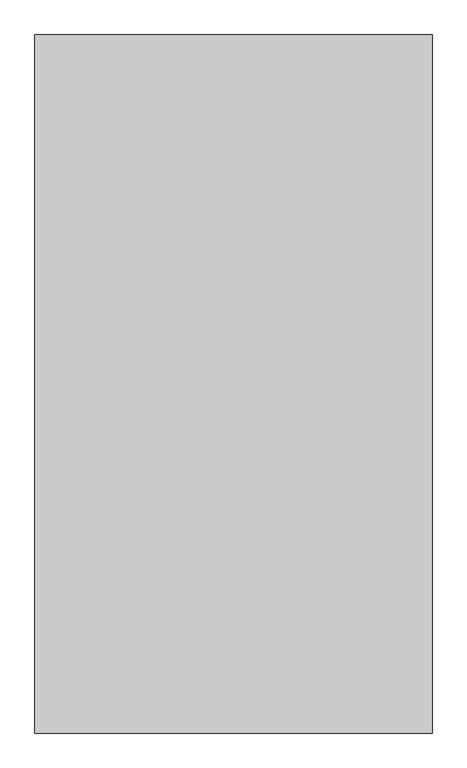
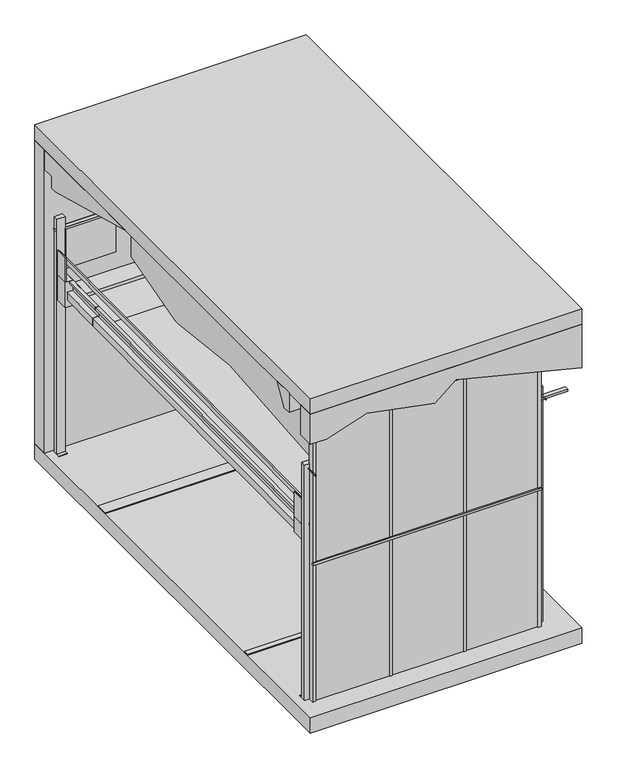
"""IFC4 building model written with IfcOpenShell, lengths in millimetres: proxy geometry, TrendVario 6200+ : TrendVario 6200+."""

from ifc_helpers import new_model, si_unit, point, frame, frame_2d, origin, origin_with_axes, place, context, project, spatial, polyline, circle_curve, trimmed, segment, composite_curve, outline, extrude, faceted_brep, source, transform, mapped, element, save
from ifc_brep_helpers import plane_surface, cylinder_surface, advanced_brep


def generic_models_ba3884c7(model_context):
    return source(origin(), model_context, "Body", "SolidModel", [
        extrude(outline(composite_curve([segment(trimmed(circle_curve(frame_2d((2850.0, 5300.0602659)), 6.0), [point((2850.0, 5294.0602659))], [point((2850.0, 5306.0602659))], False, "CARTESIAN"), True, "CONTINUOUS"), segment(trimmed(circle_curve(frame_2d((2850.0, 5300.0602659)), 6.0), [point((2850.0, 5306.0602659))], [point((2850.0, 5294.0602659))], False, "CARTESIAN"), True, "CONTINUOUS")], self_intersect=False)), frame((0.0, 0.0, -150.0), z_axis=(0.0, 0.0, 1.0), x_axis=(1.0, 0.0, 0.0)), (0.0, 0.0, 1.0), 150.0),
        extrude(outline(composite_curve([segment(trimmed(circle_curve(frame_2d((50.0, 5300.0602653)), 6.0), [point((44.0, 5300.0602653))], [point((56.0, 5300.0602653))], False, "CARTESIAN"), True, "CONTINUOUS"), segment(trimmed(circle_curve(frame_2d((50.0, 5300.0602653)), 6.0), [point((56.0, 5300.0602653))], [point((44.0, 5300.0602653))], False, "CARTESIAN"), True, "CONTINUOUS")], self_intersect=False)), frame((0.0, 0.0, -150.0), z_axis=(0.0, 0.0, 1.0), x_axis=(1.0, 0.0, 0.0)), (0.0, 0.0, 1.0), 150.0),
        extrude(outline(composite_curve([segment(trimmed(circle_curve(frame_2d((2850.0, 170.0)), 6.0), [point((2850.0, 164.0))], [point((2850.0, 176.0))], False, "CARTESIAN"), True, "CONTINUOUS"), segment(trimmed(circle_curve(frame_2d((2850.0, 170.0)), 6.0), [point((2850.0, 176.0))], [point((2850.0, 164.0))], False, "CARTESIAN"), True, "CONTINUOUS")], self_intersect=False)), frame((0.0, 0.0, -150.0), z_axis=(0.0, 0.0, 1.0), x_axis=(1.0, 0.0, 0.0)), (0.0, 0.0, 1.0), 150.0),
        extrude(outline(composite_curve([segment(trimmed(circle_curve(frame_2d((50.0, 170.0)), 6.0), [point((44.0, 170.0))], [point((56.0, 170.0))], False, "CARTESIAN"), True, "CONTINUOUS"), segment(trimmed(circle_curve(frame_2d((50.0, 170.0)), 6.0), [point((56.0, 170.0))], [point((44.0, 170.0))], False, "CARTESIAN"), True, "CONTINUOUS")], self_intersect=False)), frame((0.0, 0.0, -150.0), z_axis=(0.0, 0.0, 1.0), x_axis=(1.0, 0.0, 0.0)), (0.0, 0.0, 1.0), 150.0),
        extrude(outline(composite_curve([segment(trimmed(circle_curve(frame_2d((2965.0, 2850.0)), 6.0), [point((2965.0, 2844.0))], [point((2965.0, 2856.0))], False, "CARTESIAN"), True, "CONTINUOUS"), segment(trimmed(circle_curve(frame_2d((2965.0, 2850.0)), 6.0), [point((2965.0, 2856.0))], [point((2965.0, 2844.0))], False, "CARTESIAN"), True, "CONTINUOUS")], self_intersect=False)), frame((0.0, -50.0, 0.0), z_axis=(0.0, 1.0, 0.0), x_axis=(0.0, 0.0, 1.0)), (0.0, 0.0, 1.0), 150.0),
        extrude(outline(composite_curve([segment(trimmed(circle_curve(frame_2d((2965.0, 50.0)), 6.0), [point((2965.0, 44.0))], [point((2965.0, 56.0))], False, "CARTESIAN"), True, "CONTINUOUS"), segment(trimmed(circle_curve(frame_2d((2965.0, 50.0)), 6.0), [point((2965.0, 56.0))], [point((2965.0, 44.0))], False, "CARTESIAN"), True, "CONTINUOUS")], self_intersect=False)), frame((0.0, -50.0, 0.0), z_axis=(0.0, 1.0, 0.0), x_axis=(0.0, 0.0, 1.0)), (0.0, 0.0, 1.0), 150.0),
        extrude(outline(composite_curve([segment(trimmed(circle_curve(frame_2d((2965.0, 50.0)), 6.0), [point((2965.0, 44.0))], [point((2965.0, 56.0))], False, "CARTESIAN"), True, "CONTINUOUS"), segment(trimmed(circle_curve(frame_2d((2965.0, 50.0)), 6.0), [point((2965.0, 56.0))], [point((2965.0, 44.0))], False, "CARTESIAN"), True, "CONTINUOUS")], self_intersect=False)), frame((0.0, 5369.5816653, 0.0), z_axis=(0.0, 1.0, 0.0), x_axis=(0.0, 0.0, 1.0)), (0.0, 0.0, 1.0), 150.0),
        extrude(outline(composite_curve([segment(trimmed(circle_curve(frame_2d((2965.0, 2850.0)), 6.0), [point((2965.0, 2844.0))], [point((2965.0, 2856.0))], False, "CARTESIAN"), True, "CONTINUOUS"), segment(trimmed(circle_curve(frame_2d((2965.0, 2850.0)), 6.0), [point((2965.0, 2856.0))], [point((2965.0, 2844.0))], False, "CARTESIAN"), True, "CONTINUOUS")], self_intersect=False)), frame((0.0, 5369.6045102, 0.0), z_axis=(0.0, 1.0, 0.0), x_axis=(0.0, 0.0, 1.0)), (0.0, 0.0, 1.0), 150.0),
        extrude(outline(polyline([(0.0, -60.0), (0.0, 0.0), (4430.0, 0.0), (4430.0, -60.0), (0.0, -60.0)])), frame((2811.0, 171.9869847, 2038.264563), z_axis=(0.0, -0.008726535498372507, 0.9999619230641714), x_axis=(0.0, 0.9999619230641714, 0.008726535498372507)), (0.0, 0.0, 1.0), 100.0),
        extrude(outline(polyline([(0.0, -19.0), (0.0, 0.0), (4440.0, 0.0), (4440.0, -19.0), (0.0, -19.0)])), frame((2863.0, 167.9116926, 2505.246781), z_axis=(0.0, -0.008726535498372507, 0.9999619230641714), x_axis=(0.0, 0.9999619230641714, 0.008726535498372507)), (0.0, 0.0, 1.0), 56.0),
        faceted_brep([(2800.0, 4599.8286538, 2304.9144337), (2843.0, 4599.8286538, 2304.9144337), (2843.0, 4600.0904499, 2274.915576), (2840.0, 4600.0904499, 2274.915576), (2840.0, 4599.8548334, 2301.9145479), (2803.0, 4599.8548334, 2301.9145479), (2803.0, 4602.6211451, 1984.9266183), (2748.0, 4602.6211451, 1984.9266183), (2748.0, 4602.210998, 2031.9248287), (2711.0, 4602.210998, 2031.9248287), (2711.0, 4602.1848184, 2034.9247145), (2751.0, 4602.1848184, 2034.9247145), (2751.0, 4602.5949655, 1987.9265041), (2800.0, 4602.5949655, 1987.9265041), (2803.0, 102.7924914, 1945.6572086), (2803.0, 100.0261796, 2262.6451382), (2840.0, 100.0261796, 2262.6451382), (2840.0, 100.2617961, 2235.6461663), (2843.0, 100.2617961, 2235.6461663), (2843.0, 100.0, 2265.645024), (2800.0, 100.0, 2265.645024), (2800.0, 102.7924914, 1945.6572086), (2800.0, 202.7886837, 1946.5298621), (2748.0, 202.7886837, 1946.5298621), (2748.0, 202.3785365, 1993.5280725), (2711.0, 202.3785365, 1993.5280725), (2711.0, 202.3523569, 1996.5279583), (2751.0, 202.3523569, 1996.5279583), (2751.0, 202.7625041, 1949.5297479), (2800.0, 202.7625041, 1949.5297479)], [[[0, 1, 2, 3, 4, 5, 6, 7, 8, 9, 10, 11, 12, 13]], [[14, 15, 16, 17, 18, 19, 20, 21]], [[1, 0, 20, 19]], [[2, 1, 19, 18]], [[3, 2, 18, 17]], [[4, 3, 17, 16]], [[5, 4, 16, 15]], [[6, 5, 15, 14]], [[7, 6, 14, 21, 22, 23]], [[8, 7, 23, 24]], [[9, 8, 24, 25]], [[10, 9, 25, 26]], [[11, 10, 26, 27]], [[12, 11, 27, 28]], [[13, 12, 28, 29]], [[0, 13, 29, 22, 21, 20]], [[22, 29, 28, 27, 26, 25, 24, 23]]]),
        extrude(outline(polyline([(2133.867435, 0.0), (2133.867435, -1200.0), (-1962.132565, -1200.0), (-1962.132565, 0.0), (2133.867435, 0.0)])), frame((1600.0, 2468.3986345, 2016.3034445), z_axis=(0.0, -0.008726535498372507, 0.9999619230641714), x_axis=(0.0, 0.9999619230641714, 0.008726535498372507)), (0.0, 0.0, 1.0), 8.0),
        extrude(outline(polyline([(0.0, -1500.0), (0.0, 0.0), (769.9999999, 0.0), (769.9999999, -1500.0), (0.0, -1500.0)])), frame((100.0, 4602.1898877, 2034.9247587), z_axis=(0.0, -0.008726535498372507, 0.9999619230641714), x_axis=(0.0, 0.9999619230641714, 0.008726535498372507)), (0.0, 0.0, 1.0), 8.0),
        extrude(outline(polyline([(5133.7158509, 2091.5652956), (5371.7067886, 2093.642211), (5372.0907561, 2049.6438864), (5369.0908704, 2049.6177068), (5368.7330824, 2090.6161457), (5136.7419163, 2088.5915894), (5137.0997042, 2047.5931506), (5134.0998185, 2047.566971), (5133.7158509, 2091.5652956)])), frame((100.0, 0.0, 0.0), z_axis=(1.0, 0.0, 0.0), x_axis=(0.0, 1.0, 0.0)), (0.0, 0.0, 1.0), 1500.0),
        extrude(outline(polyline([(319.9999999, 0.0), (319.9999999, -43.0), (289.9999999, -43.0), (289.9999999, -40.0), (317.0, -40.0), (317.0, -3.0), (0.0, -3.0), (0.0, 52.0), (46.9999999, 52.0), (46.9999999, 89.0), (49.9999999, 89.0), (49.9999999, 49.0), (2.9999999, 49.0), (2.9999999, 0.0), (319.9999999, 0.0)])), frame((100.0, 4602.6262144, 1984.9266626), z_axis=(0.0, 0.9999619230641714, 0.008726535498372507), x_axis=(0.0, -0.008726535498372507, 0.9999619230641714)), (0.0, 0.0, 1.0), 770.0),
        extrude(outline(polyline([(200.0, 8.0), (200.0, 0.0), (100.0, 0.0), (100.0, 3025.0), (160.0, 3025.0), (160.0, 8.0), (200.0, 8.0)])), frame((0.0, 0.0, 0.0), z_axis=(1.0, 0.0, 0.0), x_axis=(0.0, 1.0, 0.0)), (0.0, 0.0, 1.0), 100.0),
        faceted_brep([(-100.0, 5249.9885779, 3650.0), (3200.0, 5249.9885779, 3650.0), (3200.0, 5249.9885779, 3500.0), (-100.0, 5249.9885779, 3500.0), (-100.0, 5399.9657348, 3650.0), (3200.0, 5399.9657348, 3650.0), (3200.0, 5167.6820669, 3500.0), (3200.0, 3699.9673137, 3900.0057953), (-100.0, 3699.9885779, 3900.0), (-100.0, 5167.6820669, 3500.0), (3200.0, 5399.9657348, 3900.0), (-100.0, 5399.9657348, 3900.0)], [[[0, 1, 2, 3]], [[1, 0, 4, 5]], [[6, 7, 8, 9]], [[10, 7, 6, 2, 1, 5]], [[8, 11, 4, 0, 3, 9]], [[11, 10, 5, 4]], [[7, 10, 11, 8]], [[2, 6, 9, 3]]]),
        extrude(outline(polyline([(3511.8273555, -100.0), (3511.8273555, 90.0080034), (3672.5161926, 584.5573919), (3511.8273555, 1411.229794), (3719.8801857, 1665.5456754), (3337.2977535, 3200.0), (3900.0, 3200.0), (3900.0, -100.0), (3511.8273555, -100.0)])), frame((0.0, -200.0, 0.0), z_axis=(0.0, 1.0, 0.0), x_axis=(0.0, 0.0, 1.0)), (0.0, 0.0, 1.0), 200.0),
        extrude(outline(polyline([(100.0, 45.0), (100.0, 55.0), (2800.0, 55.0), (2800.0, 45.0), (100.0, 45.0)])), origin_with_axes(), (0.0, 0.0, 1.0), 3526.0),
        extrude(outline(polyline([(1932.0, 44.0), (1932.0, 35.0), (1902.0, 35.0), (1902.0, 44.0), (1932.0, 44.0)])), origin_with_axes(), (0.0, 0.0, 1.0), 3526.0),
        extrude(outline(polyline([(1031.0, 44.0), (1031.0, 35.0), (1001.0, 35.0), (1001.0, 44.0), (1031.0, 44.0)])), origin_with_axes(), (0.0, 0.0, 1.0), 3526.0),
        extrude(outline(polyline([(0.0, -19.0), (0.0, 0.0), (5147.1058324, 0.0), (5147.1058324, -19.0), (0.0, -19.0)])), frame((37.0, 5302.7546227, 2550.0578764), z_axis=(0.0, -0.008726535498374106, 0.9999619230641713), x_axis=(0.0, -0.9999619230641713, -0.008726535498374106)), (0.0, 0.0, 1.0), 56.0),
        extrude(outline(polyline([(18.0, 5142.5968952), (7.0, 5142.5968952), (7.0, 5312.5968952), (18.0, 5312.5968952), (18.0, 5142.5968952)])), frame((0.0, 0.0, 2319.0), z_axis=(0.0, 0.0, 1.0), x_axis=(1.0, 0.0, 0.0)), (0.0, 0.0, 1.0), 310.0),
        extrude(outline(polyline([(2882.0, 5142.0602659), (2882.0, 5312.0602659), (2893.0, 5312.0602659), (2893.0, 5142.0602659), (2882.0, 5142.0602659)])), frame((0.0, 0.0, 2319.0), z_axis=(0.0, 0.0, 1.0), x_axis=(1.0, 0.0, 0.0)), (0.0, 0.0, 1.0), 310.0),
        extrude(outline(polyline([(5369.6045102, 0.0), (5270.0602659, 0.0), (5270.0602659, 8.0), (5310.0602659, 8.0), (5310.0602659, 3025.0), (5369.6045102, 3025.0), (5369.6045102, 0.0)])), frame((2800.0, 0.0, 0.0), z_axis=(1.0, 0.0, 0.0), x_axis=(0.0, 1.0, 0.0)), (0.0, 0.0, 1.0), 100.0),
        extrude(outline(polyline([(5269.5968952, 0.0), (5269.5968952, 8.0), (5309.5968952, 8.0), (5309.5968952, 3025.0), (5369.5968952, 3025.0), (5369.5968952, 0.0), (5269.5968952, 0.0)])), frame((0.0, 0.0, 0.0), z_axis=(1.0, 0.0, 0.0), x_axis=(0.0, 1.0, 0.0)), (0.0, 0.0, 1.0), 100.0),
        advanced_brep(
        [(850.0080034, 219.0783305, 2530.0), (850.0080034, 212.7549246, 3254.5905482), (850.0080034, 507.9448535, 3807.0791047), (850.0080034, 614.5742843, 3808.0096456), (850.0080034, 616.0660458, 3810.8016825), (850.0080034, 3620.0751529, 3837.0172728), (850.0080034, 5220.0526533, 3400.9650555), (850.0080034, 5220.0602659, 2299.8475577), (850.0080034, 4315.7898833, 2049.0711861), (850.0080034, 4227.211946, 2040.6781608), (850.0080034, 3146.7425411, 2165.2190354), (850.0080034, 1426.7734714, 2016.5954437), (850.0080034, 1343.0441931, 2020.9835093), (850.0080034, 226.8699728, 2268.4333765), (850.0080034, 224.5873155, 2530.0), (2750.0080034, 507.9448535, 3807.0791047), (2750.0080034, 212.7549245, 3254.5905482), (2750.0080034, 219.0783305, 2530.0), (2750.0080034, 224.5873155, 2530.0), (2750.0080034, 226.8699728, 2268.4333765), (2750.0080034, 1343.0441931, 2020.9835093), (2750.0080034, 1426.7734714, 2016.5954437), (2750.0080034, 3146.7425411, 2165.2190354), (2750.0080034, 4227.211946, 2040.6781608), (2750.0080034, 4315.7898833, 2049.0711861), (2750.0080034, 5220.0602659, 2299.8475577), (2750.0080034, 5220.0526533, 3400.9650555), (2750.0080034, 3620.0751529, 3837.0172728), (2750.0080034, 616.0660458, 3810.8016825), (2750.0080034, 614.5742843, 3808.0096456)],
        [
            (0, 1),
            (1, 2),
            (2, 3),
            (3, 4),
            (4, 5),
            (5, 6),
            (6, 7),
            (7, 8),
            (8, 9, circle_curve(frame((850.0080034, 4247.9113358, 2293.8333213), z_axis=(-1.0, 6.846874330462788e-12, 0.0), x_axis=(6.846340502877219e-12, 0.9999619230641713, 0.008726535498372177)), 254.0)),
            (9, 10),
            (10, 11),
            (11, 12, circle_curve(frame((850.0080034, 1398.0198551, 2268.9626951), z_axis=(-1.0, 6.846874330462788e-12, 0.0), x_axis=(6.846340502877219e-12, 0.9999619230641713, 0.008726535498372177)), 254.0)),
            (12, 13),
            (13, 14),
            (14, 0),
            (15, 16),
            (16, 17),
            (17, 18),
            (18, 19),
            (19, 20),
            (20, 21, circle_curve(frame((2750.0080034, 1398.0198551, 2268.9626951), z_axis=(1.0, -6.846874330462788e-12, 0.0), x_axis=(6.846340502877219e-12, 0.9999619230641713, 0.008726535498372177)), 254.0)),
            (21, 22),
            (22, 23),
            (23, 24, circle_curve(frame((2750.0080034, 4247.9113358, 2293.8333213), z_axis=(1.0, -6.846874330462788e-12, 0.0), x_axis=(6.846340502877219e-12, 0.9999619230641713, 0.008726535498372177)), 254.0)),
            (24, 25),
            (25, 26),
            (26, 27),
            (27, 28),
            (28, 29),
            (29, 15),
            (2, 15),
            (29, 3),
            (1, 16),
            (17, 0),
            (14, 18),
            (4, 28),
            (27, 5),
            (26, 6),
            (25, 7),
            (24, 8),
            (23, 9),
            (22, 10),
            (21, 11),
            (20, 12),
            (19, 13),
        ],
        [
            plane_surface(frame((850.0080034, 428.8717402, 3900.0), z_axis=(-1.0, 6.846035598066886e-12, 0.0), x_axis=(0.0, 0.0, 1.0))),
            plane_surface(frame((2750.0080034, 428.8717402, 3900.0), z_axis=(1.0, -6.846035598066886e-12, 0.0), x_axis=(0.0, 0.0, 1.0))),
            plane_surface(frame((850.0080034, 507.9448535, 3807.0791047), z_axis=(0.0, -0.008726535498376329, 0.9999619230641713), x_axis=(1.0, -6.846035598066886e-12, 0.0))),
            plane_surface(frame((850.0080034, 212.7549246, 3254.5905482), z_axis=(-6.038215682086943e-12, -0.8820017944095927, 0.4712460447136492), x_axis=(1.0, -6.846035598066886e-12, 0.0))),
            plane_surface(frame((850.0080034, 4789.9238543, 2530.0), z_axis=(0.0, 0.0, -1.0), x_axis=(1.0, -6.845999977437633e-12, 0.0))),
            plane_surface(frame((850.0080034, 219.0783305, 2530.0), z_axis=(-6.845774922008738e-12, -0.9999619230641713, -0.008726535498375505), x_axis=(1.0, -6.846035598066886e-12, 0.0))),
            plane_surface(frame((850.0080034, 616.0660458, 3810.8016825), z_axis=(0.0, -0.008726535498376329, 0.9999619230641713), x_axis=(1.0, -6.845999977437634e-12, 0.0))),
            plane_surface(frame((850.0080034, 3620.0751529, 3837.0172728), z_axis=(1.8001286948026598e-12, 0.2629460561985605, 0.9648105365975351), x_axis=(1.0, -6.845999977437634e-12, 0.0))),
            plane_surface(frame((850.0080034, 320.8761169, 3258.313126), z_axis=(-6.0382156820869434e-12, -0.8820017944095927, 0.4712460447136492), x_axis=(1.0, -6.846035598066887e-12, 0.0))),
            plane_surface(frame((850.0080034, 5220.0526533, 3400.9650555), z_axis=(6.845999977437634e-12, 1.0, 0.0), x_axis=(1.0, -6.845999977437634e-12, 0.0))),
            plane_surface(frame((2750.0080034, 4315.7898833, 2049.0711861), z_axis=(1.7721223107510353e-12, 0.26723837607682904, -0.963630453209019), x_axis=(-1.0, 6.8459999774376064e-12, 0.0))),
            cylinder_surface(frame((2750.0080034, 4247.9113358, 2293.8333213), z_axis=(1.0, -6.846874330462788e-12, 0.0), x_axis=(6.846340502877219e-12, 0.9999619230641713, 0.008726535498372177)), 254.0),
            plane_surface(frame((2750.0080034, 3146.7425411, 2165.2190354), z_axis=(0.0, -0.11450735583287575, -0.9934224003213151), x_axis=(-1.0, 6.845999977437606e-12, 0.0))),
            plane_surface(frame((2750.0080034, 1426.7734714, 2016.5954437), z_axis=(0.0, 0.08608980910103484, -0.9962873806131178), x_axis=(-1.0, 6.845999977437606e-12, 0.0))),
            cylinder_surface(frame((2750.0080034, 1398.0198551, 2268.9626951), z_axis=(1.0, -6.846874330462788e-12, 0.0), x_axis=(6.846340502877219e-12, 0.9999619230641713, 0.008726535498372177)), 254.0),
            plane_surface(frame((2750.0080034, 226.8699728, 2268.4333765), z_axis=(-1.5398915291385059e-12, -0.21643961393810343, -0.9762960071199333), x_axis=(-1.0, 6.845999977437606e-12, 0.0))),
            plane_surface(frame((2750.0080034, 220.9776342, 2943.6285041), z_axis=(-6.8462590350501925e-12, -0.9999619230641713, -0.00872653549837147), x_axis=(-1.0, 6.845999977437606e-12, 0.0))),
        ],
        [
            (0, [[1, 2, 3, 4, 5, 6, 7, 8, 9, 10, 11, 12, 13, 14, 15]]),
            (1, [[16, 17, 18, 19, 20, 21, 22, 23, 24, 25, 26, 27, 28, 29, 30]]),
            (2, [[31, -30, 32, -3]]),
            (3, [[-2, 33, -16, -31]]),
            (4, [[34, -15, 35, -18]]),
            (5, [[-1, -34, -17, -33]]),
            (6, [[-5, 36, -28, 37]]),
            (7, [[-6, -37, -27, 38]]),
            (8, [[-36, -4, -32, -29]]),
            (9, [[-7, -38, -26, 39]]),
            (10, [[-25, 40, -8, -39]]),
            (11, [[-24, 41, -9, -40]]),
            (12, [[-23, 42, -10, -41]]),
            (13, [[-22, 43, -11, -42]]),
            (14, [[-21, 44, -12, -43]]),
            (15, [[-20, 45, -13, -44]]),
            (16, [[-45, -19, -35, -14]]),
        ],
    ),
        extrude(outline(polyline([(1932.0, 35.0), (1902.0, 35.0), (1902.0, 44.0), (1932.0, 44.0), (1932.0, 35.0)])), origin_with_axes(), (0.0, 0.0, 1.0), 3526.0),
        extrude(outline(polyline([(1031.0, 35.0), (1001.0, 35.0), (1001.0, 44.0), (1031.0, 44.0), (1031.0, 35.0)])), origin_with_axes(), (0.0, 0.0, 1.0), 3526.0),
        extrude(outline(polyline([(3200.0, 153.0), (3200.0, 100.0), (97.0, 100.0), (97.0, 153.0), (3200.0, 153.0)])), frame((0.0, 0.0, 2854.0), z_axis=(0.0, 0.0, 1.0), x_axis=(1.0, 0.0, 0.0)), (0.0, 0.0, 1.0), 25.0),
        extrude(outline(polyline([(-3.0, 5319.5968952), (-3.0, 5369.5968952), (3200.0, 5369.5968952), (3200.0, 5319.5968952), (-3.0, 5319.5968952)])), frame((0.0, 0.0, 2854.0), z_axis=(0.0, 0.0, 1.0), x_axis=(1.0, 0.0, 0.0)), (0.0, 0.0, 1.0), 25.0),
        extrude(outline(polyline([(700.0, 5369.6045096), (700.0, 5284.6045096), (100.0, 5284.6045096), (100.0, 5369.6045096), (700.0, 5369.6045096)])), frame((0.0, 0.0, 2379.0), z_axis=(0.0, 0.0, 1.0), x_axis=(1.0, 0.0, 0.0)), (0.0, 0.0, 1.0), 500.0),
        extrude(outline(polyline([(250.0, 3650.0), (250.0, 3900.0), (500.0, 3900.0), (349.6363636, 3650.0), (250.0, 3650.0)])), frame((-100.0, 0.0, 0.0), z_axis=(1.0, 0.0, 0.0), x_axis=(0.0, 1.0, 0.0)), (0.0, 0.0, 1.0), 3300.0),
        extrude(outline(polyline([(60.0, 32.0), (60.0, 100.0), (2840.0, 100.0), (2840.0, 32.0), (60.0, 32.0)])), frame((0.0, 0.0, 3526.0), z_axis=(0.0, 0.0, 1.0), x_axis=(1.0, 0.0, 0.0)), (0.0, 0.0, 1.0), 74.0),
        extrude(outline(polyline([(60.0, 20.0), (60.0, 34.0), (2840.0, 34.0), (2840.0, 20.0), (60.0, 20.0)])), frame((0.0, 0.0, 1763.0), z_axis=(0.0, 0.0, 1.0), x_axis=(1.0, 0.0, 0.0)), (0.0, 0.0, 1.0), 30.0),
        extrude(outline(polyline([(2840.0, 32.0), (2800.0, 32.0), (2800.0, 100.0), (2840.0, 100.0), (2840.0, 32.0)])), origin_with_axes(), (0.0, 0.0, 1.0), 3526.0),
        extrude(outline(polyline([(100.0, 32.0), (60.0, 32.0), (60.0, 100.0), (100.0, 100.0), (100.0, 32.0)])), origin_with_axes(), (0.0, 0.0, 1.0), 3526.0),
        extrude(outline(polyline([(0.0, -19.0), (0.0, 0.0), (702.4860602, 0.0), (702.4860602, -19.0), (0.0, -19.0)])), frame((2882.0, 5310.2019427, 2550.1228682), z_axis=(0.0, -0.00872653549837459, 0.9999619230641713), x_axis=(0.0, -0.9999619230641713, -0.00872653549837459)), (0.0, 0.0, 1.0), 56.0),
        extrude(outline(polyline([(0.0, -59.9999949), (0.0, 0.0), (622.0497333, 0.0), (622.0497333, -59.9999949), (0.0, -59.9999949)])), frame((2810.9999948, 4601.8183039, 2076.9231152), z_axis=(0.0, -0.00872653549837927, 0.9999619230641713), x_axis=(0.0, 0.9999619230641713, 0.00872653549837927)), (0.0, 0.0, 1.0), 100.0),
        extrude(outline(polyline([(0.0, -60.0), (0.0, 0.0), (4430.0, 0.0), (4430.0, -60.0), (0.0, -60.0)])), frame((29.0, 171.9869847, 2038.264563), z_axis=(0.0, -0.008726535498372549, 0.9999619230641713), x_axis=(0.0, 0.9999619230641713, 0.008726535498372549)), (0.0, 0.0, 1.0), 100.0),
        extrude(outline(polyline([(0.0, -60.0), (0.0, 0.0), (585.0, 0.0), (585.0, -60.0), (0.0, -60.0)])), frame((29.0, 4601.8233732, 2076.9231595), z_axis=(0.0, -0.008726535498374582, 0.9999619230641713), x_axis=(0.0, 0.9999619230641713, 0.008726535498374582)), (0.0, 0.0, 1.0), 100.0),
        extrude(outline(polyline([(5312.0602659, 1991.0934303), (5142.0602659, 1989.6098628), (5142.0602659, 2314.0), (5312.0602659, 2314.0), (5312.0602659, 1991.0934303)])), frame((2803.0, 0.0, 0.0), z_axis=(1.0, 0.0, 0.0), x_axis=(0.0, 1.0, 0.0)), (0.0, 0.0, 1.0), 90.0),
        extrude(outline(polyline([(5142.5968952, 1989.6145459), (5142.5968952, 2314.0), (5312.5968952, 2314.0), (5312.5968952, 1991.0981134), (5142.5968952, 1989.6145459)])), frame((7.0, 0.0, 0.0), z_axis=(1.0, 0.0, 0.0), x_axis=(0.0, 1.0, 0.0)), (0.0, 0.0, 1.0), 90.0),
        extrude(outline(polyline([(7.0, 160.0), (7.0, 330.0), (18.0, 330.0), (18.0, 160.0), (7.0, 160.0)])), frame((0.0, 0.0, 2229.0), z_axis=(0.0, 0.0, 1.0), x_axis=(1.0, 0.0, 0.0)), (0.0, 0.0, 1.0), 315.0),
        extrude(outline(polyline([(7.0, 160.0), (7.0, 330.0), (97.0, 330.0), (97.0, 160.0), (7.0, 160.0)])), frame((0.0, 0.0, 2029.0), z_axis=(0.0, 0.0, 1.0), x_axis=(1.0, 0.0, 0.0)), (0.0, 0.0, 1.0), 195.0),
        extrude(outline(polyline([(2893.0, 330.0), (2893.0, 160.0), (2882.0, 160.0), (2882.0, 330.0), (2893.0, 330.0)])), frame((0.0, 0.0, 2229.0), z_axis=(0.0, 0.0, 1.0), x_axis=(1.0, 0.0, 0.0)), (0.0, 0.0, 1.0), 315.0),
        extrude(outline(polyline([(2893.0, 330.0), (2893.0, 160.0), (2803.0, 160.0), (2803.0, 330.0), (2893.0, 330.0)])), frame((0.0, 0.0, 2029.0), z_axis=(0.0, 0.0, 1.0), x_axis=(1.0, 0.0, 0.0)), (0.0, 0.0, 1.0), 195.0),
        extrude(outline(polyline([(100.0, 0.0), (100.0, 3025.0), (160.0, 3025.0), (160.0, 8.0), (200.0, 8.0), (200.0, 0.0), (100.0, 0.0)])), frame((2800.0, 0.0, 0.0), z_axis=(1.0, 0.0, 0.0), x_axis=(0.0, 1.0, 0.0)), (0.0, 0.0, 1.0), 100.0),
        extrude(outline(polyline([(2803.0, 5372.5968952), (2803.0, 5319.5968952), (97.0, 5319.5968952), (97.0, 5372.5968952), (2803.0, 5372.5968952)])), frame((0.0, 0.0, 2854.0), z_axis=(0.0, 0.0, 1.0), x_axis=(1.0, 0.0, 0.0)), (0.0, 0.0, 1.0), 25.0),
        extrude(outline(polyline([(2803.0, 140.0), (2803.0, 87.0), (100.0, 87.0), (100.0, 140.0), (2803.0, 140.0)])), frame((0.0, 0.0, 2854.0), z_axis=(0.0, 0.0, 1.0), x_axis=(1.0, 0.0, 0.0)), (0.0, 0.0, 1.0), 25.0),
        extrude(outline(polyline([(-100.0, 1119.5968952), (-100.0, 1179.5968952), (3200.0, 1179.5968952), (3200.0, 1119.5968952), (-100.0, 1119.5968952)])), origin_with_axes(), (0.0, 0.0, 1.0), 15.0),
        extrude(outline(polyline([(-100.0, 4119.5968952), (-100.0, 4265.5968952), (3200.0, 4265.5968952), (3200.0, 4119.5968952), (-100.0, 4119.5968952)])), origin_with_axes(), (0.0, 0.0, 1.0), 15.0),
        extrude(outline(polyline([(3200.0, 5399.9657348), (-100.0, 5399.9657348), (-100.0, 5599.9961923), (3200.0, 5599.9961923), (3200.0, 5399.9657348)])), origin_with_axes(), (0.0, 0.0, 1.0), 3900.0),
        faceted_brep([(100.0, 4599.8336906, 2304.9182049), (100.0, 4602.6000023, 1987.9302753), (149.0, 4602.6000023, 1987.9302753), (149.0, 4602.1898551, 2034.9284857), (189.0, 4602.1898551, 2034.9284857), (189.0, 4602.2160348, 2031.9285999), (152.0, 4602.2160348, 2031.9285999), (152.0, 4602.6261819, 1984.9303895), (97.0, 4602.6261819, 1984.9303895), (97.0, 4599.8598702, 2301.9183191), (60.0, 4599.8598702, 2301.9183191), (60.0, 4600.0954866, 2274.9193472), (57.0, 4600.0954866, 2274.9193472), (57.0, 4599.8336906, 2304.9182049), (100.0, 100.0, 1945.6365661), (100.0, 97.2075086, 2265.6243815), (57.0, 97.2075086, 2265.6243815), (57.0, 97.4693047, 2235.6255238), (60.0, 97.4693047, 2235.6255238), (60.0, 97.2336882, 2262.6244957), (97.0, 97.2336882, 2262.6244957), (97.0, 100.0, 1945.6365661), (100.0, 199.9961923, 1946.5092197), (100.0, 199.9700127, 1949.5091054), (149.0, 199.9700127, 1949.5091054), (149.0, 199.5598655, 1996.5073158), (189.0, 199.5598655, 1996.5073158), (189.0, 199.5860451, 1993.50743), (152.0, 199.5860451, 1993.50743), (152.0, 199.9961923, 1946.5092197)], [[[0, 1, 2, 3, 4, 5, 6, 7, 8, 9, 10, 11, 12, 13]], [[14, 15, 16, 17, 18, 19, 20, 21]], [[1, 0, 15, 14, 22, 23]], [[2, 1, 23, 24]], [[3, 2, 24, 25]], [[4, 3, 25, 26]], [[5, 4, 26, 27]], [[6, 5, 27, 28]], [[7, 6, 28, 29]], [[8, 7, 29, 22, 14, 21]], [[9, 8, 21, 20]], [[10, 9, 20, 19]], [[11, 10, 19, 18]], [[12, 11, 18, 17]], [[13, 12, 17, 16]], [[0, 13, 16, 15]], [[23, 22, 29, 28, 27, 26, 25, 24]]]),
        extrude(outline(polyline([(506.3333687, 2021.7621074), (506.6824301, 1981.7636305), (503.6825444, 1981.7374509), (503.3596625, 2018.736042), (261.7372106, 2016.6274348), (105.9840281, 1973.4332545), (112.3977491, 1950.3061236), (133.5976191, 1956.1853679), (134.3993342, 1953.2944765), (110.3085729, 1946.6135171), (102.2914216, 1975.5224307), (261.3160886, 2019.623874), (506.3333687, 2021.7621074)])), frame((100.0, 0.0, 0.0), z_axis=(1.0, 0.0, 0.0), x_axis=(0.0, 1.0, 0.0)), (0.0, 0.0, 1.0), 2700.0),
        extrude(outline(polyline([(3200.0, -200.0), (-100.0, -200.0), (-100.0, 5599.9961923), (3200.0, 5599.9961923), (3200.0, -200.0)])), frame((0.0, 0.0, -200.0), z_axis=(0.0, 0.0, 1.0), x_axis=(1.0, 0.0, 0.0)), (0.0, 0.0, 1.0), 200.0),
        extrude(outline(polyline([(3200.0, -200.0), (-100.0, -200.0), (-100.0, 5600.5968952), (3200.0, 5600.5968952), (3200.0, -200.0)])), frame((0.0, 0.0, 3900.0), z_axis=(0.0, 0.0, 1.0), x_axis=(1.0, 0.0, 0.0)), (0.0, 0.0, 1.0), 200.0),
        extrude(outline(polyline([(319.9719044, 0.0), (2.9719045, 0.0), (2.9719045, -49.0), (49.9719044, -49.0), (49.9719044, -89.0), (46.9719044, -89.0), (46.9719044, -52.0), (-0.0280956, -52.0), (-0.0280956, 3.0), (316.9719044, 3.0), (316.9719044, 40.0), (289.9719044, 40.0), (289.9719044, 43.0), (319.9719044, 43.0), (319.9719044, 0.0)])), frame((2800.0, 4602.6209, 1984.9303434), z_axis=(0.0, 0.9999619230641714, 0.008726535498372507), x_axis=(0.0, -0.008726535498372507, 0.9999619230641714)), (0.0, 0.0, 1.0), 770.0052822),
        extrude(outline(polyline([(300.4126792, 0.0), (300.4126792, -767.6410141), (-899.5873208, -767.6410141), (-899.5873208, 0.0), (300.4126792, 0.0)])), frame((2499.5873208, 5369.3942892, 2041.6200501), z_axis=(0.0, -0.008726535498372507, 0.9999619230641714), x_axis=(1.0, 0.0, 0.0)), (0.0, 0.0, 1.0), 8.0),
        extrude(outline(polyline([(5371.6762983, 2093.6456722), (5372.0602659, 2049.6473476), (5369.0603801, 2049.621168), (5368.7025922, 2090.6196068), (5136.711426, 2088.5950506), (5137.069214, 2047.5966117), (5134.0693282, 2047.5704321), (5133.6853606, 2091.5687567), (5371.6762983, 2093.6456722)])), frame((1600.0, 0.0, 0.0), z_axis=(1.0, 0.0, 0.0), x_axis=(0.0, 1.0, 0.0)), (0.0, 0.0, 1.0), 1200.0),
        extrude(outline(polyline([(2038.9337722, 0.0), (2038.9337722, -1500.0), (-2056.8816536, -1500.0), (-2056.8816536, 0.0), (2038.9337722, 0.0)])), frame((1600.0, 2545.3865539, 2016.9753079), z_axis=(0.0, -0.008726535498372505, 0.9999619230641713), x_axis=(0.0, -0.9999619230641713, -0.008726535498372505)), (0.0, 0.0, 1.0), 8.0),
    ])


if __name__ == "__main__":
    model = new_model("IFC4")
    model_context = context("Model", 3, world=origin())
    ifc_project = project(units=[si_unit("LENGTHUNIT", "METRE", prefix="MILLI")], contexts=[model_context])
    site = spatial("IfcSite", under=ifc_project)
    building = spatial("IfcBuilding", under=site)
    placement = place(None, origin())
    generic_models_shape = generic_models_ba3884c7(model_context)
    element("IfcBuildingElementProxy", 1, Name="TrendVario 6200+ : TrendVario 6200+", ObjectType="TrendVario 6200+ : TrendVario 6200+", at=placement, inside=building, context=model_context, shape_type="MappedRepresentation", body=[
        mapped(generic_models_shape, transform((0.0, 0.0, 0.0), x_axis=(1.0, 0.0, 0.0), y_axis=(0.0, 1.0, 0.0), z_axis=(0.0, 0.0, 1.0))),
    ])
    save(model, "model.ifc")
